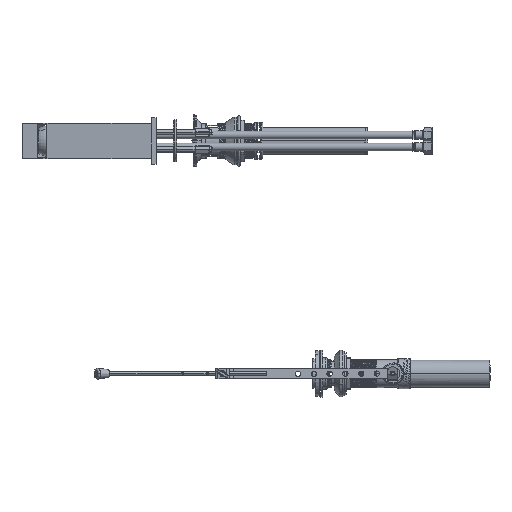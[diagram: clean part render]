
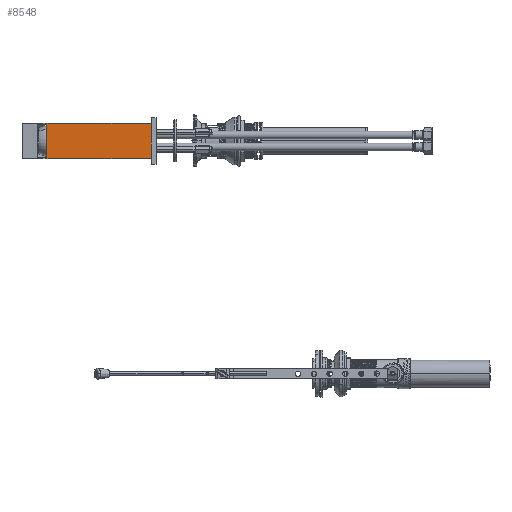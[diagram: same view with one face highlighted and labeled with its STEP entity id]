
A CAD part, left-side view. The second image highlights one B-rep face of the part: STEP entity #8548.
In plain terms, the highlighted planar face has unit normal (-0.996, 0.087, 0).
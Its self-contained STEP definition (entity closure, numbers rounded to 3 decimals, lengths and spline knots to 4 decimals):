
#567 = CARTESIAN_POINT ( 'NONE',  ( -0.4195, 4.6506, 0.8267 ) ) ;
#978 = LINE ( 'NONE', #55862, #1089 ) ;
#1089 = VECTOR ( 'NONE', #1383, 39.3701 ) ;
#1383 = DIRECTION ( 'NONE',  ( 0., 0., -1. ) ) ;
#2011 = DIRECTION ( 'NONE',  ( 0., 0., 1. ) ) ;
#5175 = VERTEX_POINT ( 'NONE', #51907 ) ;
#5824 = ORIENTED_EDGE ( 'NONE', *, *, #45786, .T. ) ;
#6528 = CARTESIAN_POINT ( 'NONE',  ( -0.4056, 4.8094, 0.8268 ) ) ;
#7707 = CARTESIAN_POINT ( 'NONE',  ( -0.4046, 4.8215, 0.8268 ) ) ;
#7977 = FACE_OUTER_BOUND ( 'NONE', #58786, .T. ) ;
#8548 = ADVANCED_FACE ( 'NONE', ( #7977 ), #50140, .F. ) ;
#10699 = CARTESIAN_POINT ( 'NONE',  ( -0.4271, 4.5645, 0.8269 ) ) ;
#12235 = CARTESIAN_POINT ( 'NONE',  ( -0.4044, 4.8228, -0.8268 ) ) ;
#12575 = VERTEX_POINT ( 'NONE', #12235 ) ;
#12882 = CARTESIAN_POINT ( 'NONE',  ( -0.4092, 4.7691, 0.8268 ) ) ;
#13274 = CARTESIAN_POINT ( 'NONE',  ( -0.4049, 4.8175, 0.8268 ) ) ;
#13548 = CARTESIAN_POINT ( 'NONE',  ( -0.4195, 4.6507, -0.8269 ) ) ;
#15833 = ORIENTED_EDGE ( 'NONE', *, *, #25912, .F. ) ;
#15991 = CARTESIAN_POINT ( 'NONE',  ( -0.427, 4.5646, -0.8269 ) ) ;
#17484 = CARTESIAN_POINT ( 'NONE',  ( -0.4044, 4.8228, 0.8268 ) ) ;
#19220 = CARTESIAN_POINT ( 'NONE',  ( -0.4064, 4.8014, 0.8268 ) ) ;
#19884 = CARTESIAN_POINT ( 'NONE',  ( -0.6156, 2.4114, 0. ) ) ;
#19983 = CARTESIAN_POINT ( 'NONE',  ( -0.4233, 4.6075, 0.8266 ) ) ;
#20284 = CARTESIAN_POINT ( 'NONE',  ( -0.412, 4.7368, -0.8269 ) ) ;
#21133 = EDGE_CURVE ( 'NONE', #68334, #42997, #24824, .T. ) ;
#22887 = ORIENTED_EDGE ( 'NONE', *, *, #21133, .F. ) ;
#24824 = B_SPLINE_CURVE_WITH_KNOTS ( 'NONE', 3,
 ( #62185, #66968, #62573, #7707, #72934, #43094, #37923, #13274, #25194, #37535, #6528, #19220, #31949, #12882, #55829, #30781, #567, #19983, #49471 ),
 .UNSPECIFIED., .F., .F.,
 ( 4, 2, 2, 2, 2, 2, 1, 2, 2, 4 ),
 ( 0., 0.0039, 0.0078, 0.0156, 0.0313, 0.0625, 0.125, 0.25, 0.5, 1. ),
 .UNSPECIFIED. ) ;
#25194 = CARTESIAN_POINT ( 'NONE',  ( -0.405, 4.8161, 0.8268 ) ) ;
#25912 = EDGE_CURVE ( 'NONE', #5175, #47801, #978, .T. ) ;
#26386 = CARTESIAN_POINT ( 'NONE',  ( -0.8268, 0., -0.8268 ) ) ;
#26649 = ORIENTED_EDGE ( 'NONE', *, *, #64906, .F. ) ;
#30781 = CARTESIAN_POINT ( 'NONE',  ( -0.4139, 4.7152, 0.8267 ) ) ;
#31949 = CARTESIAN_POINT ( 'NONE',  ( -0.4078, 4.7852, 0.8268 ) ) ;
#32636 = CARTESIAN_POINT ( 'NONE',  ( -0.4271, 4.5645, 0.8269 ) ) ;
#34654 = CARTESIAN_POINT ( 'NONE',  ( -0.427, 4.5646, -0.8269 ) ) ;
#36177 = LINE ( 'NONE', #17484, #37337 ) ;
#37047 = DIRECTION ( 'NONE',  ( 0.996, -0.087, 0. ) ) ;
#37337 = VECTOR ( 'NONE', #53699, 39.3701 ) ;
#37535 = CARTESIAN_POINT ( 'NONE',  ( -0.4054, 4.8121, 0.8268 ) ) ;
#37613 = B_SPLINE_CURVE_WITH_KNOTS ( 'NONE', 1,
 ( #32636, #56900 ),
 .UNSPECIFIED., .F., .F.,
 ( 2, 2 ),
 ( 0., 1. ),
 .UNSPECIFIED. ) ;
#37923 = CARTESIAN_POINT ( 'NONE',  ( -0.4048, 4.8195, 0.8268 ) ) ;
#42997 = VERTEX_POINT ( 'NONE', #10699 ) ;
#43094 = CARTESIAN_POINT ( 'NONE',  ( -0.4047, 4.8202, 0.8268 ) ) ;
#45470 = AXIS2_PLACEMENT_3D ( 'NONE', #19884, #37047, #2011 ) ;
#45786 = EDGE_CURVE ( 'NONE', #12575, #61864, #48260, .T. ) ;
#47801 = VERTEX_POINT ( 'NONE', #26386 ) ;
#48260 = B_SPLINE_CURVE_WITH_KNOTS ( 'NONE', 3,
 ( #75159, #20284, #13548, #61291 ),
 .UNSPECIFIED., .F., .F.,
 ( 4, 4 ),
 ( 0., 1. ),
 .UNSPECIFIED. ) ;
#49471 = CARTESIAN_POINT ( 'NONE',  ( -0.4271, 4.5645, 0.8269 ) ) ;
#49689 = B_SPLINE_CURVE_WITH_KNOTS ( 'NONE', 1,
 ( #57731, #34654 ),
 .UNSPECIFIED., .F., .F.,
 ( 2, 2 ),
 ( 0., 1. ),
 .UNSPECIFIED. ) ;
#50140 = PLANE ( 'NONE',  #45470 ) ;
#51907 = CARTESIAN_POINT ( 'NONE',  ( -0.8268, 0., 0.8268 ) ) ;
#53699 = DIRECTION ( 'NONE',  ( 0., 0., -1. ) ) ;
#55826 = ORIENTED_EDGE ( 'NONE', *, *, #73536, .F. ) ;
#55829 = CARTESIAN_POINT ( 'NONE',  ( -0.412, 4.7367, 0.8268 ) ) ;
#55862 = CARTESIAN_POINT ( 'NONE',  ( -0.8268, 0., 0.8269 ) ) ;
#56171 = EDGE_CURVE ( 'NONE', #68334, #12575, #36177, .T. ) ;
#56900 = CARTESIAN_POINT ( 'NONE',  ( -0.8268, 0., 0.8268 ) ) ;
#57731 = CARTESIAN_POINT ( 'NONE',  ( -0.8268, 0., -0.8268 ) ) ;
#58786 = EDGE_LOOP ( 'NONE', ( #15833, #55826, #22887, #59740, #5824, #26649 ) ) ;
#59740 = ORIENTED_EDGE ( 'NONE', *, *, #56171, .T. ) ;
#61291 = CARTESIAN_POINT ( 'NONE',  ( -0.427, 4.5646, -0.8269 ) ) ;
#61864 = VERTEX_POINT ( 'NONE', #15991 ) ;
#62185 = CARTESIAN_POINT ( 'NONE',  ( -0.4044, 4.8228, 0.8268 ) ) ;
#62573 = CARTESIAN_POINT ( 'NONE',  ( -0.4045, 4.8222, 0.8268 ) ) ;
#64906 = EDGE_CURVE ( 'NONE', #47801, #61864, #49689, .T. ) ;
#65135 = CARTESIAN_POINT ( 'NONE',  ( -0.4044, 4.8228, 0.8268 ) ) ;
#66968 = CARTESIAN_POINT ( 'NONE',  ( -0.4046, 4.8226, 0.8268 ) ) ;
#68334 = VERTEX_POINT ( 'NONE', #65135 ) ;
#72934 = CARTESIAN_POINT ( 'NONE',  ( -0.4046, 4.8212, 0.8268 ) ) ;
#73536 = EDGE_CURVE ( 'NONE', #42997, #5175, #37613, .T. ) ;
#75159 = CARTESIAN_POINT ( 'NONE',  ( -0.4044, 4.8228, -0.8268 ) ) ;
